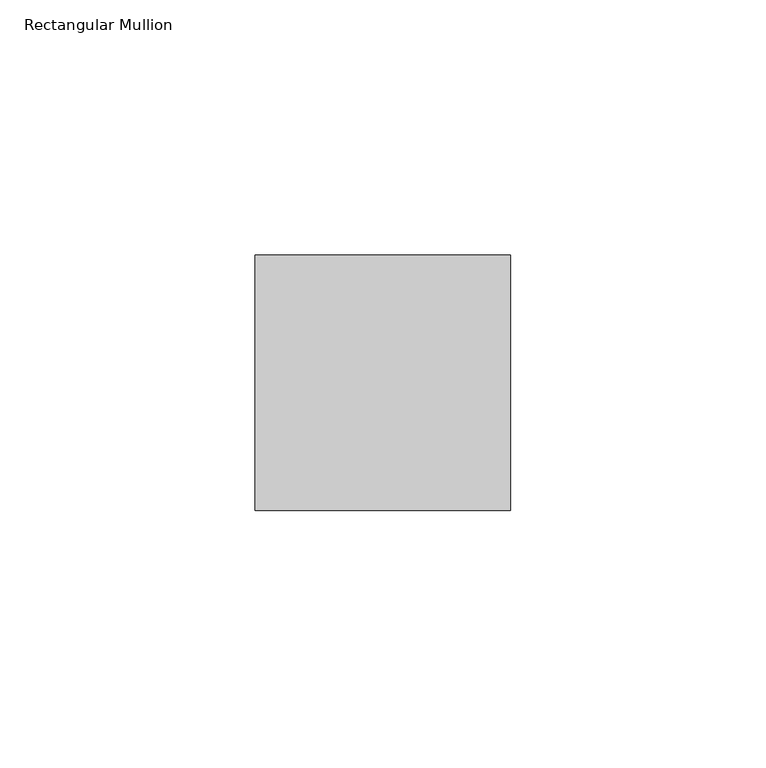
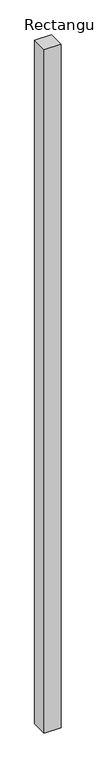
"""IFC4 building model written with IfcOpenShell, lengths in millimetres: member geometry, Rectangular Mullion : Mullion_Curtain Wall_Generic Showcase_50x50mm."""

from ifc_helpers import new_model, si_unit, frame, origin, place, context, project, spatial, polyline, outline, extrude, source, transform, mapped, element, save


def rectangular_mullion_14e84c0c(model_context):
    return source(origin(), model_context, "Body", "SweptSolid", [
        extrude(outline(polyline([(25.0, 0.0), (25.0, -50.0), (-25.0, -50.0), (-25.0, 0.0), (25.0, 0.0)])), frame((0.0, 0.0, -2175.0), z_axis=(0.0, 0.0, 1.0), x_axis=(1.0, 0.0, 0.0)), (0.0, 0.0, 1.0), 2175.0),
    ])


if __name__ == "__main__":
    model = new_model("IFC4")
    model_context = context("Model", 3, world=origin())
    ifc_project = project(units=[si_unit("LENGTHUNIT", "METRE", prefix="MILLI")], contexts=[model_context])
    site = spatial("IfcSite", under=ifc_project)
    building = spatial("IfcBuilding", under=site)
    placement = place(None, origin())
    rectangular_mullion_shape = rectangular_mullion_14e84c0c(model_context)
    element("IfcMember", 1, ObjectType="Rectangular Mullion : Mullion_Curtain Wall_Generic Showcase_50x50mm", at=placement, inside=building, context=model_context, shape_type="MappedRepresentation", body=[
        mapped(rectangular_mullion_shape, transform((0.0, 0.0, 0.0), x_axis=(1.0, 0.0, 0.0), y_axis=(0.0, 1.0, 0.0), z_axis=(0.0, 0.0, 1.0))),
    ])
    save(model, "model.ifc")
